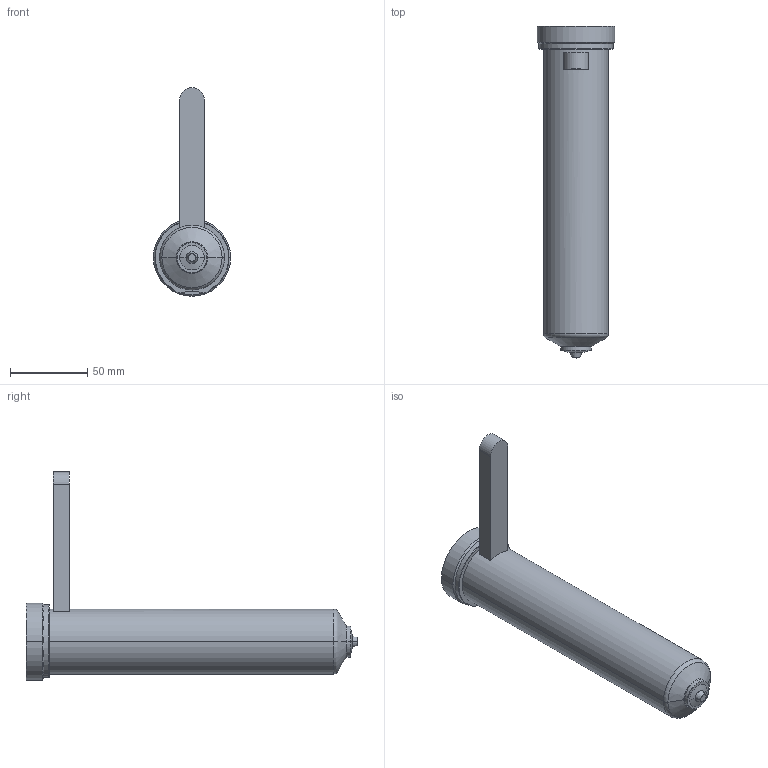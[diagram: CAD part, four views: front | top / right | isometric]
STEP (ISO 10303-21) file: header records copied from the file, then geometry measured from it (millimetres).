
FILE_DESCRIPTION((''),'2;1');
FILE_NAME('EO16_VG-BL_WR_200_COT','2024-02-19T13:22:02',('sundharh'),(''),'CREO PARAMETRIC BY PTC INC, 2023154','CREO PARAMETRIC BY PTC INC, 2023154','');
FILE_SCHEMA(('CONFIG_CONTROL_DESIGN'));
Length unit declared in the file: millimetre
Products named in the file (1): EO16_VG-BL_WR_200_COT
Bounding box: 50 x 215 x 135 mm (x, y, z)
Volume: 307524.5 mm3; surface area: 35704.9 mm2
Topology: 1 solids, 1 shells, 38 faces, 81 edges, 48 vertices
Faces by surface type: cylinder 11, plane 10, torus 9, cone 6, sphere 2
Entity records: 1151 total; most frequent: CARTESIAN_POINT 263, DIRECTION 199, ORIENTED_EDGE 162, AXIS2_PLACEMENT_3D 86, EDGE_CURVE 81, VERTEX_POINT 48, CIRCLE 48, EDGE_LOOP 41
